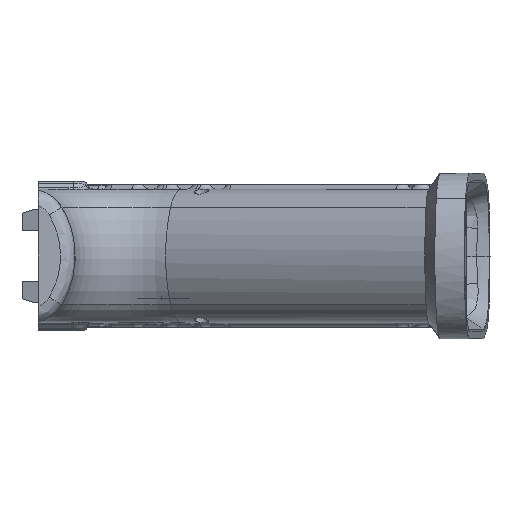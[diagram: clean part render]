
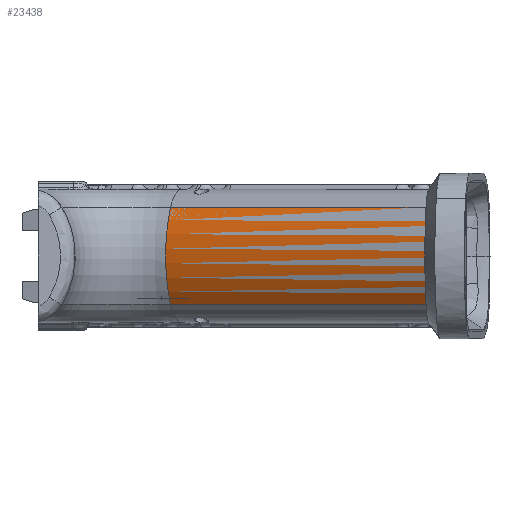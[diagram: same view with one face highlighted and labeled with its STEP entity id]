
A CAD part, left-side view. The second image highlights one B-rep face of the part: STEP entity #23438.
In plain terms, the highlighted cylindrical face has radius 20.552 mm (diameter 41.104 mm), a partial arc.
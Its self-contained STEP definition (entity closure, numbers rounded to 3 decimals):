
#773=ELLIPSE('',#25190,21.435,20.552);
#1093=CYLINDRICAL_SURFACE('',#25189,20.552);
#1753=CIRCLE('',#25191,20.552);
#2915=FACE_OUTER_BOUND('',#4252,.T.);
#4252=EDGE_LOOP('',(#17740,#17741,#17742,#17743));
#6643=LINE('',#48765,#8255);
#6644=LINE('',#48809,#8256);
#8255=VECTOR('',#28893,10.);
#8256=VECTOR('',#28898,10.);
#10105=VERTEX_POINT('',#48342);
#10117=VERTEX_POINT('',#48679);
#10120=VERTEX_POINT('',#48763);
#10123=VERTEX_POINT('',#48807);
#12954=EDGE_CURVE('',#10120,#10105,#6643,.T.);
#12957=EDGE_CURVE('',#10123,#10120,#773,.T.);
#12958=EDGE_CURVE('',#10123,#10117,#6644,.T.);
#12959=EDGE_CURVE('',#10117,#10105,#1753,.T.);
#17740=ORIENTED_EDGE('',*,*,#12957,.F.);
#17741=ORIENTED_EDGE('',*,*,#12958,.T.);
#17742=ORIENTED_EDGE('',*,*,#12959,.T.);
#17743=ORIENTED_EDGE('',*,*,#12954,.F.);
#23438=ADVANCED_FACE('',(#2915),#1093,.T.);
#25189=AXIS2_PLACEMENT_3D('',#48806,#28894,#28895);
#25190=AXIS2_PLACEMENT_3D('',#48808,#28896,#28897);
#25191=AXIS2_PLACEMENT_3D('',#48810,#28899,#28900);
#28893=DIRECTION('',(0.367,0.93,0.));
#28894=DIRECTION('center_axis',(0.367,0.93,0.));
#28895=DIRECTION('ref_axis',(-0.799,0.315,0.512));
#28896=DIRECTION('center_axis',(-0.087,-0.996,
0.));
#28897=DIRECTION('ref_axis',(-0.996,0.087,0.));
#28898=DIRECTION('',(0.367,0.93,0.));
#28899=DIRECTION('center_axis',(-0.367,-0.93,0.));
#28900=DIRECTION('ref_axis',(-0.799,0.315,0.512));
#48342=CARTESIAN_POINT('',(14.736,109.183,189.471));
#48679=CARTESIAN_POINT('',(14.736,109.183,210.529));
#48763=CARTESIAN_POINT('',(-6.98,54.056,189.471));
#48765=CARTESIAN_POINT('',(-10.338,45.53,189.471));
#48806=CARTESIAN_POINT('Origin',(6.084,39.061,200.));
#48807=CARTESIAN_POINT('',(-6.98,54.055,210.529));
#48808=CARTESIAN_POINT('Origin',(11.358,52.451,200.));
#48809=CARTESIAN_POINT('',(-10.338,45.53,210.529));
#48810=CARTESIAN_POINT('Origin',(31.157,102.714,200.));
